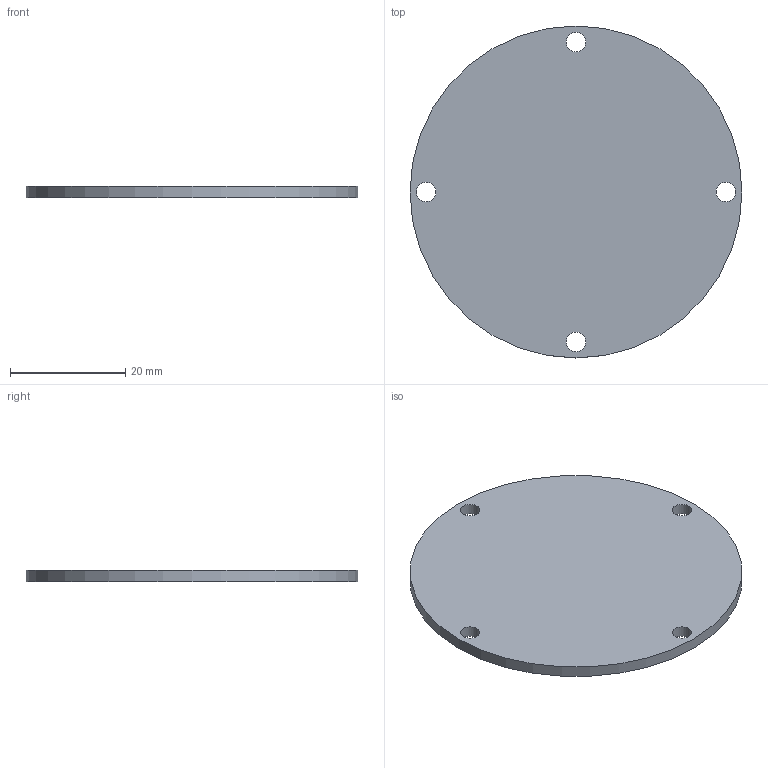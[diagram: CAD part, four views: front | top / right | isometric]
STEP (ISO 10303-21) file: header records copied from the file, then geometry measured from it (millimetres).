
FILE_DESCRIPTION(('Open CASCADE Model'),'2;1');
FILE_NAME('Open CASCADE Shape Model','2026-10-21T16:53:53',('Author'),( 'Open CASCADE'),'Open CASCADE STEP processor 7.9','Open CASCADE 7.9' ,'Unknown');
FILE_SCHEMA(('AUTOMOTIVE_DESIGN { 1 0 10303 214 1 1 1 1 }'));
Length unit declared in the file: millimetre
Products named in the file (1): Open CASCADE STEP translator 7.9 24
Bounding box: 57.6 x 57.6 x 2 mm (x, y, z)
Volume: 5138.9 mm3; surface area: 5586.3 mm2
Topology: 1 solids, 1 shells, 7 faces, 15 edges, 10 vertices
Faces by surface type: cylinder 5, plane 2
Full cylindrical faces by diameter (mm): 3.4 x4, 57.6 x1
Entity records: 444 total; most frequent: CARTESIAN_POINT 111, DIRECTION 63, ORIENTED_EDGE 30, PCURVE 30, DEFINITIONAL_REPRESENTATION 30, LINE 25, VECTOR 25, AXIS2_PLACEMENT_3D 18
